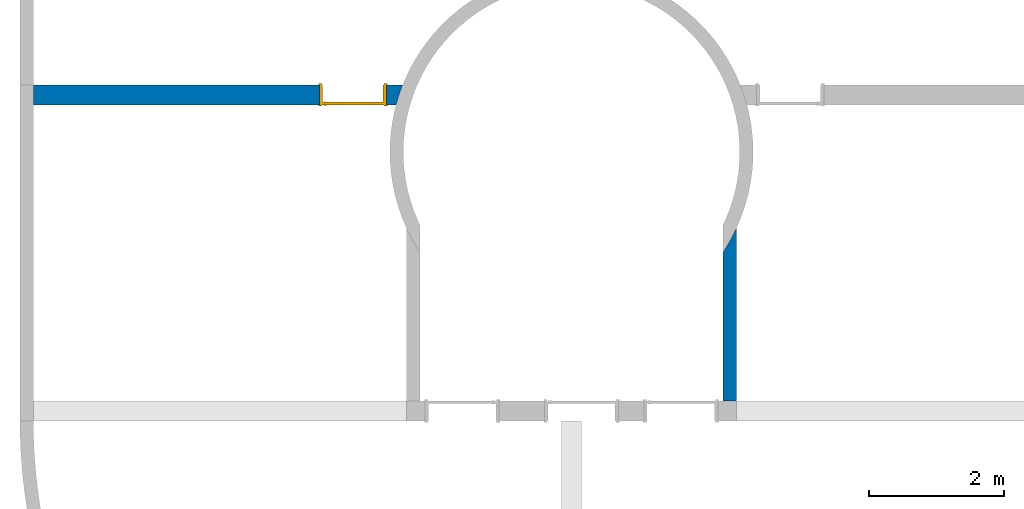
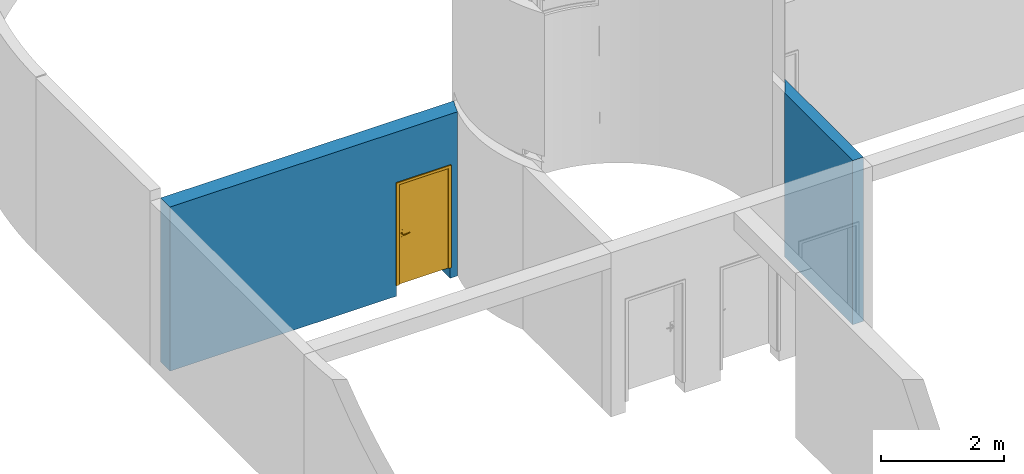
# One storey, part 5 of 8: 2 walls, 1 door, 1 opening.
"""IFC4 building model written with IfcOpenShell, lengths in millimetres."""

import ifcopenshell
import ifcopenshell.guid

model = None  # the IFC model being written
_history = None  # IfcOwnerHistory: only IFC2X3 demands one
_inside = {}  # id of a spatial element -> (the spatial element, [elements in it])
_under = {}  # id of a project, library or spatial element -> (it, [spatial elements below it])
_declared = {}  # id of a project -> (the project, [libraries it declares])
_typed = {}  # id of a type object -> (the type object, [elements of that type])
_made_of = {}  # id of a material, layer set ... -> (it, [elements and type objects made of it])


def new_model(schema):
    """Start an empty IFC model of exactly this schema.

    Asked for "IFC4X3", IfcOpenShell would pick the latest addendum, in which some entities
    have other attributes; the version numbers below select the first issue.
    IFC2X3 requires an IfcOwnerHistory on every rooted entity: one is made here for all.
    """
    global model, _history
    if schema == "IFC4X3":
        model = ifcopenshell.file(schema_version=(4, 3, 0, 0))
    else:
        model = ifcopenshell.file(schema=schema)
    _inside.clear()
    _under.clear()
    _declared.clear()
    _typed.clear()
    _made_of.clear()
    _history = None
    if model.schema == "IFC2X3":
        org = make("IfcOrganization", Name="unknown")
        user = make(
            "IfcPersonAndOrganization",
            ThePerson=make("IfcPerson", FamilyName="unknown"),
            TheOrganization=org,
        )
        app = make(
            "IfcApplication",
            ApplicationDeveloper=org,
            Version="unknown",
            ApplicationFullName="unknown",
            ApplicationIdentifier="unknown",
        )
        _history = make(
            "IfcOwnerHistory",
            OwningUser=user,
            OwningApplication=app,
            ChangeAction="ADDED",
            CreationDate=0,
        )
    return model


def make(cls, **values):
    """One entity of the class cls with the attributes given. An attribute that is None is left unset."""
    return model.create_entity(
        cls, **{name: value for name, value in values.items() if value is not None}
    )


def entity(cls, *values):
    """Any entity or typed value of the class cls, its attributes in the order of the schema. None: left unset."""
    e = model.create_entity(cls)
    for i, value in enumerate(values):
        if value is not None:
            e[i] = value
    return e


def rooted(cls, **values):
    """An entity with a GlobalId (a new one), such as an element, a storey or a relation."""
    return make(cls, GlobalId=ifcopenshell.guid.new(), OwnerHistory=_history, **values)


def si_unit(unit_type, name, prefix=None):
    """IfcSIUnit, for example si_unit("LENGTHUNIT", "METRE", prefix="MILLI")."""
    return make("IfcSIUnit", UnitType=unit_type, Prefix=prefix, Name=name)


def converted_unit(unit_type, name, factor, base, dimensions=None, offset=None):
    """IfcConversionBasedUnit, such as the inch: factor (a typed value) times the base unit."""
    return make(
        "IfcConversionBasedUnit"
        if offset is None
        else "IfcConversionBasedUnitWithOffset",
        ConversionOffset=offset,
        Dimensions=None
        if dimensions is None
        else entity("IfcDimensionalExponents", *dimensions),
        UnitType=unit_type,
        Name=name,
        ConversionFactor=make(
            "IfcMeasureWithUnit", ValueComponent=factor, UnitComponent=base
        ),
    )


def derived_unit(unit_type, elements):
    """IfcDerivedUnit: a product of units, each with its exponent."""
    return make(
        "IfcDerivedUnit",
        Elements=[
            make("IfcDerivedUnitElement", Unit=unit, Exponent=power)
            for unit, power in elements
        ],
        UnitType=unit_type,
    )


def assignment(units):
    """IfcUnitAssignment: the units of a project."""
    return None if units is None else make("IfcUnitAssignment", Units=units)


def point(xyz):
    """IfcCartesianPoint."""
    return None if xyz is None else make("IfcCartesianPoint", Coordinates=xyz)


def direction(xyz):
    """IfcDirection."""
    return None if xyz is None else make("IfcDirection", DirectionRatios=xyz)


def frame(location, z_axis=None, x_axis=None):
    """IfcAxis2Placement3D, a coordinate frame: its origin and axes. An axis left out is left unset."""
    return make(
        "IfcAxis2Placement3D",
        Location=point(location),
        Axis=direction(z_axis),
        RefDirection=direction(x_axis),
    )


def origin_with_axes():
    """The frame at (0, 0, 0) with the z axis (0, 0, 1) and the x axis (1, 0, 0) written out."""
    return frame((0.0, 0.0, 0.0), z_axis=(0.0, 0.0, 1.0), x_axis=(1.0, 0.0, 0.0))


def place(relative_to, where):
    """IfcLocalPlacement: puts the frame where relative to a parent placement (None: the world)."""
    return make(
        "IfcLocalPlacement", PlacementRelTo=relative_to, RelativePlacement=where
    )


def context(
    kind, dimensions, precision=None, world=None, true_north=None, identifier=None
):
    """IfcGeometricRepresentationContext, for example the 3D "Model" context."""
    return make(
        "IfcGeometricRepresentationContext",
        ContextIdentifier=identifier,
        ContextType=kind,
        CoordinateSpaceDimension=dimensions,
        Precision=precision,
        WorldCoordinateSystem=world,
        TrueNorth=true_north,
    )


def subcontext(parent, identifier, kind, view, scale=None):
    """IfcGeometricRepresentationSubContext, for example "Body" below "Model"."""
    return make(
        "IfcGeometricRepresentationSubContext",
        ContextIdentifier=identifier,
        ContextType=kind,
        ParentContext=parent,
        TargetScale=scale,
        TargetView=view,
    )


def project(units=None, contexts=None):
    """IfcProject with its units and contexts."""
    return rooted(
        "IfcProject",
        Name="project",
        RepresentationContexts=contexts,
        UnitsInContext=assignment(units),
    )


def spatial(cls, under=None, at=None, **own):
    """A site, building, storey or space (cls), placed at a placement, below another one or the project."""
    s = rooted(cls, ObjectPlacement=at, **own)
    if under is not None:
        _under.setdefault(under.id(), (under, []))[1].append(s)
    return s


def point_list(points):
    """IfcCartesianPointList2D or 3D."""
    cls = (
        "IfcCartesianPointList2D" if len(points[0]) == 2 else "IfcCartesianPointList3D"
    )
    return make(cls, CoordList=points)


def polygons(points, faces, closed=None, point_numbers=None):
    """IfcPolygonalFaceSet: a face is its outer loop, then its inner loops; points numbered from 1."""
    made = []
    for loops in faces:
        if len(loops) == 1:
            made.append(make("IfcIndexedPolygonalFace", CoordIndex=loops[0]))
        else:
            made.append(
                make(
                    "IfcIndexedPolygonalFaceWithVoids",
                    CoordIndex=loops[0],
                    InnerCoordIndices=loops[1:],
                )
            )
    return make(
        "IfcPolygonalFaceSet",
        Coordinates=point_list(points),
        Closed=closed,
        Faces=made,
        PnIndex=point_numbers,
    )


def shape(context_of_items, identifier, shape_type, items):
    """IfcShapeRepresentation: the items that make up one representation, for example the "Body"."""
    return make(
        "IfcShapeRepresentation",
        ContextOfItems=context_of_items,
        RepresentationIdentifier=identifier,
        RepresentationType=shape_type,
        Items=items,
    )


def material(Name=None, Category=None):
    """IfcMaterial."""
    return make("IfcMaterial", Name=Name, Category=Category)


def constituent(of_material, Name=None, Category=None, fraction=None):
    """IfcMaterialConstituent: one of the materials an element consists of."""
    return make(
        "IfcMaterialConstituent",
        Name=Name,
        Material=of_material,
        Fraction=fraction,
        Category=Category,
    )


def constituent_set(constituents=None, Name=None):
    """IfcMaterialConstituentSet."""
    return make(
        "IfcMaterialConstituentSet", Name=Name, MaterialConstituents=constituents
    )


def made_of(thing, what):
    """Note that an element or type object is made of a material, layer set ...; save() writes the relation."""
    if what is not None:
        _made_of.setdefault(what.id(), (what, []))[1].append(thing)
    return thing


def type_object(cls, material=None, **own):
    """A type object (cls), such as IfcWallType, which elements share."""
    return made_of(rooted(cls, **own), material)


def element(
    cls,
    number,
    at=None,
    inside=None,
    cuts=None,
    type_object=None,
    material=None,
    context=None,
    identifier="Body",
    shape_type=None,
    held_by="IfcProductDefinitionShape",
    body=None,
    shapes=None,
    **own,
):
    """One element of the class cls, such as IfcWall. Its Tag is "e" and its number.

    at: its placement. inside: the storey or other place that contains it. cuts: it is an
    opening in that element (IfcRelVoidsElement). A single representation is given by context,
    identifier, shape_type and body (its items); several are given by shapes. held_by: the class
    of the entity that holds the representations. save() writes the other relations.
    """
    e = rooted(cls, Tag="e%d" % number, ObjectPlacement=at, **own)
    if body is not None:
        shapes = [shape(context, identifier, shape_type, body)]
    if shapes is not None:
        e.Representation = make(held_by, Representations=shapes)
    if inside is not None:
        _inside.setdefault(inside.id(), (inside, []))[1].append(e)
    if cuts is not None:
        rooted(
            "IfcRelVoidsElement", RelatingBuildingElement=cuts, RelatedOpeningElement=e
        )
    if type_object is not None:
        _typed.setdefault(type_object.id(), (type_object, []))[1].append(e)
    return made_of(e, material)


def fill(opening, filler):
    """IfcRelFillsElement: the door or window that sits in an opening."""
    return rooted(
        "IfcRelFillsElement",
        RelatingOpeningElement=opening,
        RelatedBuildingElement=filler,
    )


def aggregate(whole, parts):
    """IfcRelAggregates: a whole, such as a stair, and the parts it consists of."""
    return rooted("IfcRelAggregates", RelatingObject=whole, RelatedObjects=parts)


def save(model, path):
    """Write the relations noted so far, then the file.

    IfcRelAggregates (storeys below a building ...), IfcRelContainedInSpatialStructure (elements
    in a storey), IfcRelDefinesByType, IfcRelAssociatesMaterial and IfcRelDeclares: one each for
    every whole, place, type object, material and project.
    """
    for whole, parts in _under.values():
        aggregate(whole, parts)
    for where, things in _inside.values():
        rooted(
            "IfcRelContainedInSpatialStructure",
            RelatedElements=things,
            RelatingStructure=where,
        )
    for kind, things in _typed.values():
        rooted("IfcRelDefinesByType", RelatedObjects=things, RelatingType=kind)
    for what, things in _made_of.values():
        rooted("IfcRelAssociatesMaterial", RelatedObjects=things, RelatingMaterial=what)
    for by, libraries in _declared.values():
        rooted("IfcRelDeclares", RelatingContext=by, RelatedDefinitions=libraries)
    model.write(path)


model = new_model("IFC4")

# Units and contexts
model_context = context("Model", 3, precision=0.01, world=origin_with_axes(), true_north=direction((0.0, 1.0)))
body_context = subcontext(model_context, "Body", "Model", "MODEL_VIEW")
ifc_project = project(units=[si_unit("LENGTHUNIT", "METRE", prefix="MILLI"), si_unit("AREAUNIT", "SQUARE_METRE"), si_unit("VOLUMEUNIT", "CUBIC_METRE"), converted_unit("PLANEANGLEUNIT", "DEGREE", entity("IfcPlaneAngleMeasure", 0.0174532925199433), si_unit("PLANEANGLEUNIT", "RADIAN"), dimensions=[0, 0, 0, 0, 0, 0, 0]), converted_unit("TIMEUNIT", "Year", entity("IfcTimeMeasure", 31557600.0), si_unit("TIMEUNIT", "SECOND"), dimensions=[0, 0, 1, 0, 0, 0, 0]), si_unit("MASSUNIT", "GRAM", prefix="KILO"), si_unit("THERMODYNAMICTEMPERATUREUNIT", "DEGREE_CELSIUS"), si_unit("LUMINOUSINTENSITYUNIT", "LUMEN"), si_unit("ENERGYUNIT", "JOULE", prefix="MEGA"), derived_unit("THERMALCONDUCTANCEUNIT", [(si_unit("POWERUNIT", "WATT"), 1), (si_unit("LENGTHUNIT", "METRE"), -1), (si_unit("THERMODYNAMICTEMPERATUREUNIT", "KELVIN"), -1)]), derived_unit("SPECIFICHEATCAPACITYUNIT", [(si_unit("ENERGYUNIT", "JOULE"), 1), (si_unit("MASSUNIT", "GRAM", prefix="KILO"), -1), (si_unit("THERMODYNAMICTEMPERATUREUNIT", "KELVIN"), -1)]), derived_unit("MASSDENSITYUNIT", [(si_unit("MASSUNIT", "GRAM", prefix="KILO"), 1), (si_unit("VOLUMEUNIT", "CUBIC_METRE"), -1)])], contexts=[model_context])

# Site, building, storey
site_placement = place(None, origin_with_axes())
site = spatial("IfcSite", under=ifc_project, at=site_placement, Name="Exteriér", CompositionType="ELEMENT")
building_placement = place(site_placement, origin_with_axes())
building = spatial("IfcBuilding", under=site, at=building_placement, Name="Univerzitní lezecké centrum", CompositionType="ELEMENT")
storey_placement = place(building_placement, frame((0.0, 0.0, -3350.0), z_axis=(0.0, 0.0, 1.0), x_axis=(1.0, 0.0, 0.0)))
storey = spatial("IfcBuildingStorey", under=building, at=storey_placement, Name="1.PP", CompositionType="ELEMENT", Elevation=-3350.0)

# Wall, opening, door
ifc_material = material(Name="Beton vyztužený - vnitřní svislé kce")
ifc_constituent_1 = constituent(ifc_material, Name="Beton vyztužený - vnitřní svislé kce")
ifc_constituent_set_1 = constituent_set(constituents=[ifc_constituent_1], Name="!Vnitřní betonová stěna 300 mm")
wall_type_1 = type_object("IfcWallType", Name="!Vnitřní betonová stěna 300 mm 300", PredefinedType="NOTDEFINED")
wall_1_placement = place(storey_placement, frame((-5550.14835114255, 4700.000000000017, -220.0000000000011), z_axis=(0.0, 0.0, 1.0), x_axis=(1.0, 0.0, 0.0)))
wall_1 = element("IfcWall", 1, at=wall_1_placement, inside=storey, type_object=wall_type_1, material=ifc_constituent_set_1, Name="St04", PredefinedType="NOTDEFINED", context=body_context, shape_type="Tessellation", body=[
    polygons([(4249.739482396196, -299.9999999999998, 0.500000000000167), (4249.739482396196, 0.0, 0.500000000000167), (4249.739482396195, 0.0, 220.0000000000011), (4249.739482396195, -299.9999999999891, 220.0000000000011), (4249.739482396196, 0.0, 0.0), (4249.739482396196, -299.9999999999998, 0.0), (5249.739482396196, 0.0, 0.0), (5249.739482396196, 0.0, 0.500000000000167), (5249.739482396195, 0.0, 220.0000000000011), (5249.739482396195, 0.0, 2240.000000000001), (4249.739482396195, 0.0, 2240.000000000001), (0.0, 0.0, 0.0), (0.0, 0.0, 3250.0), (5491.70995505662, 0.0, 3250.000000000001), (5491.709955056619, 0.0, 0.0), (4249.739482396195, -299.9999999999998, 2240.000000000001), (5249.739482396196, -299.9999999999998, 0.500000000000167), (5249.739482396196, -299.9999999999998, 0.0), (5391.501781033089, -299.9999999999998, 0.0), (5391.501781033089, -299.9999999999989, 3250.000000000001), (0.0, -299.9999999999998, 3250.0), (0.0, -299.9999999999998, 0.0), (5249.739482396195, -299.9999999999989, 2240.000000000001), (5249.739482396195, -299.9999999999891, 220.0000000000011), (5396.315327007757, -280.1582932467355, 3250.000000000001), (5447.212569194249, -116.4716799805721, 3250.000000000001), (5447.212569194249, -116.4716799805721, 0.0), (5396.315327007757, -280.1582932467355, 0.0)], [[[1, 2, 3, 4]], [[5, 2, 1, 6]], [[7, 8, 9, 10, 11, 3, 2, 5, 12, 13, 14, 15]], [[16, 4, 3, 11]], [[17, 18, 19, 20, 21, 22, 6, 1, 4, 16, 23, 24]], [[5, 6, 22, 12]], [[17, 8, 7, 18]], [[8, 17, 24, 9]], [[24, 23, 10, 9]], [[23, 16, 11, 10]], [[12, 22, 21, 13]], [[25, 26, 14, 13, 21, 20]], [[26, 27, 15, 14]], [[18, 7, 15, 27, 28, 19]], [[19, 28, 25, 20]], [[28, 27, 26, 25]]], closed=True),
])
opening_placement = place(wall_1_placement, frame((4749.739482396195, 0.0, 220.0000000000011), z_axis=(0.0, 0.0, 1.0), x_axis=(1.0, 0.0, 0.0)))
opening = element("IfcOpeningElement", 2, at=opening_placement, cuts=wall_1, Name="D03", context=body_context, identifier="Reference", shape_type="Tessellation", body=[
    polygons([(-500.0, -299.9999999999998, 2020.0), (500.0, -299.9999999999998, 2020.0), (500.0, 0.0, 2020.0), (-500.0, 0.0, 2020.0), (500.0, -299.9999999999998, 0.0), (-500.0, -299.9999999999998, 0.0), (-512.0, -299.9999999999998, 0.0), (-512.0, -299.9999999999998, 2032.0), (512.0, -299.9999999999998, 2032.0), (512.0, -299.9999999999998, 0.0), (500.0, 0.0, 0.0), (512.0, 0.0, 0.0), (512.0, 0.0, 2032.0), (-512.0, 0.0, 2032.0), (-512.0, 0.0, 0.0), (-500.0, 0.0, 0.0), (-500.0, -301.0000000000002, 0.0), (-512.0, -301.0000000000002, 0.0), (-512.0, -301.0000000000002, 2032.0), (512.0, -301.0000000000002, 2032.0), (512.0, -301.0000000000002, 0.0), (500.0, -301.0000000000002, 0.0), (-500.0000000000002, 1.000000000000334, 0.0), (500.0, 1.000000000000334, 0.0), (512.0, 1.000000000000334, 0.0), (512.0, 1.000000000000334, 2032.0), (-512.0, 1.000000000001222, 2032.0), (-512.0, 1.000000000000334, 0.0), (-500.0, -301.0000000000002, 2020.0), (500.0, -301.0000000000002, 2020.0)], [[[1, 2, 3, 4]], [[5, 2, 1, 6, 7, 8, 9, 10]], [[2, 5, 11, 3]], [[4, 3, 11, 12, 13, 14, 15, 16]], [[6, 1, 4, 16]], [[6, 17, 18, 7]], [[8, 7, 18, 19]], [[9, 8, 19, 20]], [[10, 9, 20, 21]], [[22, 5, 10, 21]], [[17, 6, 16, 23, 24, 11, 5, 22]], [[11, 24, 25, 12]], [[13, 12, 25, 26]], [[14, 13, 26, 27]], [[15, 14, 27, 28]], [[23, 16, 15, 28]], [[29, 30, 22, 21, 20, 19, 18, 17]], [[24, 23, 28, 27, 26, 25]], [[29, 17, 22, 30]]], closed=True),
])
door_type = type_object("IfcDoorType", Name="Dveře 24", OperationType="SINGLE_SWING_LEFT", PredefinedType="NOTDEFINED")
door_placement = place(opening_placement, frame((449.9999999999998, 0.0, 0.0), z_axis=(0.0, 0.0, 1.0), x_axis=(-1.0, 0.0, 0.0)))
door = element("IfcDoor", 3, at=door_placement, inside=storey, type_object=door_type, Name="D03", OverallHeight=2020.0, OverallWidth=1000.0, PredefinedType="NOTDEFINED", context=body_context, shape_type="Tessellation", body=[
    polygons([(911.9999999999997, 299.9999999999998, 0.0), (911.9999999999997, 318.9999999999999, 0.0), (962.0, 318.9999999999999, 0.0), (962.0, 299.9999999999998, 0.0), (911.9999999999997, 299.9999999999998, 1982.0), (911.9999999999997, 318.9999999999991, 1982.0), (962.0, 318.9999999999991, 2032.0), (962.0, 299.9999999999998, 2032.0)], [[[1, 2, 3, 4]], [[5, 6, 2, 1]], [[6, 7, 3, 2]], [[4, 3, 7, 8]], [[5, 1, 4, 8]], [[8, 7, 6, 5]]], closed=True),
    polygons([(-12.00000000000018, 299.9999999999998, 1982.0), (-12.00000000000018, 318.9999999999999, 1982.0), (-62.0, 318.9999999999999, 2032.0), (-62.0, 299.9999999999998, 2032.0), (-12.00000000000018, 299.9999999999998, 0.0), (-12.00000000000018, 318.9999999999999, 0.0), (-62.0, 318.9999999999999, 0.0), (-62.0, 299.9999999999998, 0.0)], [[[1, 2, 3, 4]], [[5, 6, 2, 1]], [[6, 7, 3, 2]], [[4, 3, 7, 8]], [[5, 1, 4, 8]], [[8, 7, 6, 5]]], closed=True),
    polygons([(900.0000000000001, 0.0, 1970.0), (900.0000000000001, 259.9999999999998, 1970.0), (900.0000000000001, 259.9999999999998, 0.0), (900.0000000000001, 0.0, 0.0), (950.0, 299.9999999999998, 1970.0), (911.9999999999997, 299.9999999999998, 1970.0), (911.9999999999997, 259.9999999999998, 1970.0), (950.0, 0.0, 1970.0), (911.9999999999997, 259.9999999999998, 0.0), (911.9999999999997, 299.9999999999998, 0.0), (950.0, 299.9999999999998, 0.0), (950.0, 0.0, 0.0)], [[[1, 2, 3, 4]], [[5, 6, 7, 2, 1, 8]], [[3, 2, 7, 9]], [[4, 3, 9, 10, 11, 12]], [[8, 1, 4, 12]], [[11, 10, 6, 5]], [[9, 7, 6, 10]], [[8, 12, 11, 5]]], closed=True),
    polygons([(0.0, 0.0, 1970.0), (0.0, 259.9999999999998, 1970.0), (-12.00000000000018, 259.9999999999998, 1970.0), (-12.00000000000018, 299.9999999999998, 1970.0), (-49.99999999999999, 299.9999999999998, 1970.0), (-49.99999999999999, 0.0, 1970.0), (0.0, 0.0, 0.0), (0.0, 259.9999999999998, 0.0), (-12.00000000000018, 259.9999999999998, 0.0), (-12.00000000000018, 299.9999999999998, 0.0), (-49.99999999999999, 299.9999999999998, 0.0), (-49.99999999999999, 0.0, 0.0)], [[[1, 2, 3, 4, 5, 6]], [[7, 8, 2, 1]], [[9, 3, 2, 8]], [[10, 4, 3, 9]], [[5, 4, 10, 11]], [[12, 6, 5, 11]], [[7, 1, 6, 12]], [[11, 10, 9, 8, 7, 12]]], closed=True),
    polygons([(911.9999999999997, 259.9999999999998, 0.0), (-11.99999999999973, 259.9999999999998, 0.0), (-11.99999999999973, 299.9999999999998, 0.0), (911.9999999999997, 299.9999999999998, 0.0), (911.9999999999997, 259.9999999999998, 1982.0), (-11.99999999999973, 259.9999999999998, 1982.0), (-11.99999999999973, 299.9999999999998, 1982.0), (911.9999999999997, 299.9999999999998, 1982.0)], [[[1, 2, 3, 4]], [[5, 6, 2, 1]], [[2, 6, 7, 3]], [[8, 4, 3, 7]], [[5, 1, 4, 8]], [[6, 5, 8, 7]]], closed=True),
    polygons([(962.0, 0.0, 0.0), (962.0, -19.00000000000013, 0.0), (911.9999999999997, -19.00000000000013, 0.0), (911.9999999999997, 0.0, 0.0), (962.0, 0.0, 2032.0), (962.0, -19.00000000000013, 2032.0), (911.9999999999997, -19.00000000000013, 1982.0), (911.9999999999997, 0.0, 1982.0)], [[[1, 2, 3, 4]], [[5, 6, 2, 1]], [[3, 2, 6, 7]], [[4, 3, 7, 8]], [[5, 1, 4, 8]], [[8, 7, 6, 5]]], closed=True),
    polygons([(-62.0, 0.0, 2032.0), (-62.0, -19.00000000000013, 2032.0), (-12.00000000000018, -19.00000000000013, 1982.0), (-12.00000000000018, 0.0, 1982.0), (-62.0, 0.0, 0.0), (-62.0, -19.00000000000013, 0.0), (-12.00000000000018, -19.00000000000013, 0.0), (-12.00000000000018, 0.0, 0.0)], [[[1, 2, 3, 4]], [[5, 6, 2, 1]], [[3, 2, 6, 7]], [[4, 3, 7, 8]], [[5, 1, 4, 8]], [[8, 7, 6, 5]]], closed=True),
    polygons([(962.0, -19.00000000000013, 2032.0), (911.9999999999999, -19.00000000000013, 1982.0), (911.9999999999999, 0.0, 1982.0), (962.0, 0.0, 2032.0), (-62.0, -19.00000000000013, 2032.0), (-12.00000000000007, -19.00000000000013, 1982.0), (-12.00000000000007, 0.0, 1982.0), (-62.0, 0.0, 2032.0)], [[[1, 2, 3, 4]], [[1, 5, 6, 2]], [[2, 6, 7, 3]], [[4, 3, 7, 8]], [[5, 1, 4, 8]], [[6, 5, 8, 7]]], closed=True),
    polygons([(962.0, 318.9999999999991, 2032.0), (962.0, 299.9999999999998, 2032.0), (911.9999999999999, 299.9999999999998, 1982.0), (911.9999999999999, 318.9999999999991, 1982.0), (-62.0, 318.9999999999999, 2032.0), (-62.0, 299.9999999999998, 2032.0), (-11.99999999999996, 299.9999999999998, 1982.0), (-11.99999999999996, 318.9999999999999, 1982.0)], [[[1, 2, 3, 4]], [[5, 6, 2, 1]], [[2, 6, 7, 3]], [[4, 3, 7, 8]], [[1, 4, 8, 5]], [[8, 7, 6, 5]]], closed=True),
    polygons([(911.9999999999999, 299.9999999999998, 1982.0), (-12.00000000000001, 299.9999999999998, 1982.0), (-12.00000000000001, 299.9999999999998, 1970.0), (-49.99999999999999, 299.9999999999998, 1970.0), (-49.99999999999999, 299.9999999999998, 2020.0), (950.0, 299.9999999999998, 2020.0), (950.0, 299.9999999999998, 1970.0), (911.9999999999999, 299.9999999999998, 1970.0), (911.9999999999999, 259.9999999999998, 1982.0), (-12.00000000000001, 259.9999999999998, 1982.0), (-12.00000000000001, 259.9999999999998, 1970.0), (0.0, 259.9999999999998, 1970.0), (0.0, 0.0, 1970.0), (-49.99999999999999, 0.0, 1970.0), (-49.99999999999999, 0.0, 2020.0), (950.0, 0.0, 2020.0), (950.0, 0.0, 1970.0), (911.9999999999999, 259.9999999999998, 1970.0), (899.9999999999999, 0.0, 1970.0), (899.9999999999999, 259.9999999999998, 1970.0)], [[[1, 2, 3, 4, 5, 6, 7, 8]], [[1, 9, 10, 2]], [[2, 10, 11, 3]], [[11, 12, 13, 14, 4, 3]], [[5, 4, 14, 15]], [[6, 5, 15, 16]], [[7, 6, 16, 17]], [[18, 8, 7, 17, 19, 20]], [[8, 18, 9, 1]], [[11, 10, 9, 18, 20, 12]], [[20, 19, 13, 12]], [[13, 19, 17, 16, 15, 14]]], closed=True),
    polygons([(890.5000000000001, 259.9999999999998, 1060.0), (833.4999999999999, 259.9999999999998, 1060.0), (833.4999999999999, 256.9999999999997, 1060.0), (890.5000000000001, 256.9999999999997, 1060.0), (890.5000000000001, 259.9999999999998, 870.0000000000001), (833.4999999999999, 259.9999999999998, 870.0000000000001), (833.4999999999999, 256.9999999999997, 870.0000000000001), (890.5000000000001, 256.9999999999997, 870.0000000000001)], [[[1, 2, 3, 4]], [[1, 5, 6, 2]], [[2, 6, 7, 3]], [[4, 3, 7, 8]], [[5, 1, 4, 8]], [[6, 5, 8, 7]]], closed=True),
    polygons([(861.9999999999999, 195.9999999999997, 989.9999999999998), (867.0, 195.9999999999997, 991.3397459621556), (867.0, 189.0000000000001, 991.3397459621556), (861.9999999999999, 189.0000000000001, 989.9999999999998), (837.0, 195.9999999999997, 989.9999999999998), (837.0, 195.9999999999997, 1010.0), (861.9999999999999, 195.9999999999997, 1010.0), (867.0, 195.9999999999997, 1008.660254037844), (870.6602540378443, 195.9999999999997, 1005.0), (871.9999999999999, 195.9999999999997, 1000.0), (870.6602540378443, 195.9999999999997, 995.0000000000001), (870.6602540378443, 189.0000000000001, 995.0000000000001), (871.9999999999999, 189.0000000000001, 1000.0), (870.6602540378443, 189.0000000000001, 1005.0), (867.0, 189.0000000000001, 1008.660254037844), (861.9999999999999, 189.0000000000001, 1010.0), (837.0, 189.0000000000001, 1010.0), (837.0, 189.0000000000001, 989.9999999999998)], [[[1, 2, 3, 4]], [[1, 5, 6, 7, 8, 9, 10, 11, 2]], [[2, 11, 12, 3]], [[4, 3, 12, 13, 14, 15, 16, 17, 18]], [[5, 1, 4, 18]], [[6, 5, 18, 17]], [[7, 6, 17, 16]], [[8, 7, 16, 15]], [[9, 8, 15, 14]], [[10, 9, 14, 13]], [[11, 10, 13, 12]]], closed=True),
    polygons([(837.0, 195.9999999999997, 1010.0), (823.9017171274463, 195.9999999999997, 1009.607300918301), (823.5960905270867, 189.0000000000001, 1009.607300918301), (837.0, 195.9999999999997, 989.9999999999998), (823.9017171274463, 195.9999999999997, 990.3926990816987), (796.8902834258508, 191.3364553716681, 1008.821902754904), (837.0, 189.0000000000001, 1010.0), (837.0, 189.0000000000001, 989.9999999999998), (797.8048372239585, 198.2831811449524, 991.1780972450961), (797.8048372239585, 198.2831811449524, 1008.821902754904), (796.8902834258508, 191.3364553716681, 991.1780972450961), (823.5960905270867, 189.0000000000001, 990.3926990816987), (772.0062561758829, 202.8321670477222, 991.9634954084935), (772.0062561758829, 202.8321670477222, 1008.036504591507), (770.4897354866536, 195.9915842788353, 1008.036504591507), (770.4897354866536, 195.9915842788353, 991.9634954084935), (746.7023167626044, 209.6123371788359, 992.7488935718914), (746.7023167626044, 209.6123371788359, 1007.251106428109), (744.5953708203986, 202.9299583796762, 1007.251106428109), (744.5953708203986, 202.9299583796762, 992.7488935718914), (738.8294420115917, 212.4778292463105, 992.9999999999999), (738.8294420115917, 212.4778292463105, 1007.0), (736.5387956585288, 205.8623119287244, 1007.0), (736.5387956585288, 205.8623119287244, 992.9999999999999)], [[[1, 2, 3]], [[1, 4, 5, 2]], [[2, 6, 3]], [[1, 3, 7]], [[5, 4, 8]], [[2, 5, 9, 10]], [[2, 10, 6]], [[3, 6, 11, 12]], [[7, 3, 12, 8]], [[5, 8, 12]], [[9, 5, 12]], [[10, 9, 13, 14]], [[10, 15, 6]], [[6, 15, 16, 11]], [[9, 12, 11]], [[13, 9, 11]], [[14, 13, 17, 18]], [[10, 14, 15]], [[15, 19, 20, 16]], [[13, 11, 16]], [[17, 13, 16]], [[18, 17, 21, 22]], [[14, 18, 19]], [[14, 19, 15]], [[19, 23, 24, 20]], [[17, 16, 20]], [[21, 17, 20]], [[22, 21, 24, 23]], [[18, 22, 23]], [[18, 23, 19]], [[21, 20, 24]]], closed=False),
    polygons([(851.6076951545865, 246.9999999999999, 994.0000000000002), (849.9999999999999, 246.9999999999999, 1000.0), (849.0, 256.9999999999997, 1000.0), (850.7416697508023, 256.9999999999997, 993.5), (855.9999999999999, 246.9999999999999, 989.6076951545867), (861.9999999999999, 246.9999999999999, 988.0), (867.9999999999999, 246.9999999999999, 989.6076951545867), (872.3923048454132, 246.9999999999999, 994.0000000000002), (873.9999999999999, 246.9999999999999, 1000.0), (872.3923048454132, 246.9999999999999, 1006.0), (867.9999999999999, 246.9999999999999, 1010.392304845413), (861.9999999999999, 246.9999999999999, 1012.0), (855.9999999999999, 246.9999999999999, 1010.392304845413), (851.6076951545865, 246.9999999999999, 1006.0), (850.7416697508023, 256.9999999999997, 1006.5), (855.4999999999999, 256.9999999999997, 1011.258330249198), (861.9999999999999, 256.9999999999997, 1013.0), (868.4999999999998, 256.9999999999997, 1011.258330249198), (873.2583302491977, 256.9999999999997, 1006.5), (875.0, 256.9999999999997, 1000.0), (873.2583302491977, 256.9999999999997, 993.5), (868.4999999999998, 256.9999999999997, 988.741669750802), (861.9999999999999, 256.9999999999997, 987.0000000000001), (855.4999999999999, 256.9999999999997, 988.741669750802)], [[[1, 2, 3, 4]], [[2, 1, 5, 6, 7, 8, 9, 10, 11, 12, 13, 14]], [[2, 14, 15, 3]], [[3, 15, 16, 17, 18, 19, 20, 21, 22, 23, 24, 4]], [[5, 1, 4, 24]], [[6, 5, 24, 23]], [[7, 6, 23, 22]], [[8, 7, 22, 21]], [[9, 8, 21, 20]], [[10, 9, 20, 19]], [[11, 10, 19, 18]], [[12, 11, 18, 17]], [[13, 12, 17, 16]], [[14, 13, 16, 15]]], closed=True),
    polygons([(844.679491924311, 253.0000000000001, 895.0), (841.9999999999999, 253.0000000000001, 904.9999999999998), (839.9999999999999, 256.9999999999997, 904.9999999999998), (842.9474411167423, 256.9999999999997, 894.0000000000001), (851.9999999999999, 253.0000000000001, 887.6794919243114), (861.9999999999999, 253.0000000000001, 885.0000000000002), (871.9999999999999, 253.0000000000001, 887.6794919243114), (879.3205080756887, 253.0000000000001, 895.0), (881.9999999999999, 253.0000000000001, 904.9999999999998), (879.3205080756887, 253.0000000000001, 915.0), (871.9999999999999, 253.0000000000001, 922.3205080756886), (861.9999999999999, 253.0000000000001, 925.0000000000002), (851.9999999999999, 253.0000000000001, 922.3205080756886), (844.6794919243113, 253.0000000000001, 915.0), (842.9474411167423, 256.9999999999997, 915.9999999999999), (851.0, 256.9999999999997, 924.0525588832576), (861.9999999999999, 256.9999999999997, 927.0), (873.0, 256.9999999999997, 924.0525588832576), (881.0525588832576, 256.9999999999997, 915.9999999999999), (883.9999999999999, 256.9999999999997, 904.9999999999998), (881.0525588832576, 256.9999999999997, 894.0000000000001), (873.0, 256.9999999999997, 885.9474411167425), (861.9999999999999, 256.9999999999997, 883.0), (851.0, 256.9999999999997, 885.9474411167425)], [[[1, 2, 3, 4]], [[2, 1, 5, 6, 7, 8, 9, 10, 11, 12, 13, 14]], [[2, 14, 15, 3]], [[3, 15, 16, 17, 18, 19, 20, 21, 22, 23, 24, 4]], [[5, 1, 4, 24]], [[6, 5, 24, 23]], [[7, 6, 23, 22]], [[8, 7, 22, 21]], [[9, 8, 21, 20]], [[10, 9, 20, 19]], [[11, 10, 19, 18]], [[12, 11, 18, 17]], [[13, 12, 17, 16]], [[14, 13, 16, 15]]], closed=True),
    polygons([(857.0502525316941, 250.9999999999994, 909.0502525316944), (855.0, 250.9999999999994, 914.0000000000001), (853.9999999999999, 253.0000000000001, 914.0000000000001), (856.3431457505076, 253.0000000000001, 908.3431457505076), (861.9999999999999, 250.9999999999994, 907.0), (866.9497474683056, 250.9999999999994, 909.0502525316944), (869.0, 250.9999999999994, 914.0000000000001), (866.9497474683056, 250.9999999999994, 918.949747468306), (861.9999999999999, 250.9999999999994, 920.9999999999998), (857.0502525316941, 250.9999999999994, 918.949747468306), (856.3431457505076, 253.0000000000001, 919.6568542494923), (861.9999999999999, 253.0000000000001, 922.0000000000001), (867.6568542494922, 253.0000000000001, 919.6568542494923), (869.9999999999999, 253.0000000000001, 914.0000000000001), (867.6568542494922, 253.0000000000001, 908.3431457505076), (861.9999999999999, 253.0000000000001, 906.0000000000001)], [[[1, 2, 3, 4]], [[2, 1, 5, 6, 7, 8, 9, 10]], [[2, 10, 11, 3]], [[3, 11, 12, 13, 14, 15, 16, 4]], [[5, 1, 4, 16]], [[6, 5, 16, 15]], [[7, 6, 15, 14]], [[8, 7, 14, 13]], [[9, 8, 13, 12]], [[10, 9, 12, 11]]], closed=True),
    polygons([(861.9999999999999, 246.9999999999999, 1010.0), (857.0, 246.9999999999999, 1008.660254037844), (857.0, 195.9999999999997, 1008.660254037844), (861.9999999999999, 195.9999999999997, 1010.0), (867.0, 246.9999999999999, 1008.660254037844), (870.6602540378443, 246.9999999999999, 1005.0), (871.9999999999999, 246.9999999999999, 1000.0), (870.6602540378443, 246.9999999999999, 995.0000000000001), (867.0, 246.9999999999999, 991.3397459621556), (861.9999999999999, 246.9999999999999, 989.9999999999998), (857.0, 246.9999999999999, 991.3397459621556), (853.3397459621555, 246.9999999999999, 995.0000000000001), (851.9999999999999, 246.9999999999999, 1000.0), (853.3397459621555, 246.9999999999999, 1005.0), (853.3397459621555, 195.9999999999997, 1005.0), (851.9999999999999, 195.9999999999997, 1000.0), (853.3397459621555, 195.9999999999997, 995.0000000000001), (857.0, 195.9999999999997, 991.3397459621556), (861.9999999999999, 195.9999999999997, 989.9999999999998), (867.0, 195.9999999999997, 991.3397459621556), (870.6602540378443, 195.9999999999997, 995.0000000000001), (871.9999999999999, 195.9999999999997, 1000.0), (870.6602540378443, 195.9999999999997, 1005.0), (867.0, 195.9999999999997, 1008.660254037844)], [[[1, 2, 3, 4]], [[1, 5, 6, 7, 8, 9, 10, 11, 12, 13, 14, 2]], [[2, 14, 15, 3]], [[4, 3, 15, 16, 17, 18, 19, 20, 21, 22, 23, 24]], [[5, 1, 4, 24]], [[6, 5, 24, 23]], [[7, 6, 23, 22]], [[8, 7, 22, 21]], [[9, 8, 21, 20]], [[10, 9, 20, 19]], [[11, 10, 19, 18]], [[12, 11, 18, 17]], [[13, 12, 17, 16]], [[14, 13, 16, 15]]], closed=True),
    polygons([(890.5000000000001, 299.9999999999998, 1060.0), (890.5000000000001, 302.9999999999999, 1060.0), (833.4999999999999, 302.9999999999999, 1060.0), (833.4999999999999, 299.9999999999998, 1060.0), (890.5000000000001, 299.9999999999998, 870.0000000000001), (890.5000000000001, 302.9999999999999, 870.0000000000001), (833.4999999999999, 302.9999999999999, 870.0000000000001), (833.4999999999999, 299.9999999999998, 870.0000000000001)], [[[1, 2, 3, 4]], [[5, 6, 2, 1]], [[2, 6, 7, 3]], [[4, 3, 7, 8]], [[1, 4, 8, 5]], [[8, 7, 6, 5]]], closed=True),
    polygons([(861.9999999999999, 363.9999999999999, 989.9999999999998), (861.9999999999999, 370.9999999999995, 989.9999999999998), (867.0, 370.9999999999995, 991.3397459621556), (867.0, 363.9999999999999, 991.3397459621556), (837.0, 363.9999999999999, 989.9999999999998), (837.0, 370.9999999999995, 989.9999999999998), (837.0, 370.9999999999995, 1010.0), (861.9999999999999, 370.9999999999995, 1010.0), (867.0, 370.9999999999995, 1008.660254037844), (870.6602540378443, 370.9999999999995, 1005.0), (871.9999999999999, 370.9999999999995, 1000.0), (870.6602540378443, 370.9999999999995, 995.0000000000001), (870.6602540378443, 363.9999999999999, 995.0000000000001), (871.9999999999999, 363.9999999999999, 1000.0), (870.6602540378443, 363.9999999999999, 1005.0), (867.0, 363.9999999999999, 1008.660254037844), (861.9999999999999, 363.9999999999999, 1010.0), (837.0, 363.9999999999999, 1010.0)], [[[1, 2, 3, 4]], [[5, 6, 2, 1]], [[2, 6, 7, 8, 9, 10, 11, 12, 3]], [[4, 3, 12, 13]], [[1, 4, 13, 14, 15, 16, 17, 18, 5]], [[18, 7, 6, 5]], [[17, 8, 7, 18]], [[16, 9, 8, 17]], [[15, 10, 9, 16]], [[14, 11, 10, 15]], [[13, 12, 11, 14]]], closed=True),
    polygons([(837.0, 363.9999999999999, 1010.0), (823.5960905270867, 370.9999999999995, 1009.607300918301), (823.9017171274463, 363.9999999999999, 1009.607300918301), (837.0, 370.9999999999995, 1010.0), (796.8902834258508, 368.6635446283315, 1008.821902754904), (823.9017171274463, 363.9999999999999, 990.3926990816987), (837.0, 363.9999999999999, 989.9999999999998), (837.0, 370.9999999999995, 989.9999999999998), (823.5960905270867, 370.9999999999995, 990.3926990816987), (796.8902834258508, 368.6635446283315, 991.1780972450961), (797.8048372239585, 361.7168188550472, 1008.821902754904), (797.8048372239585, 361.7168188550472, 991.1780972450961), (770.4897354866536, 364.0084157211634, 991.9634954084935), (770.4897354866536, 364.0084157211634, 1008.036504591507), (772.0062561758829, 357.1678329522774, 1008.036504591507), (772.0062561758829, 357.1678329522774, 991.9634954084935), (744.5953708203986, 357.0700416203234, 992.7488935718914), (744.5953708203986, 357.0700416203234, 1007.251106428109), (746.7023167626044, 350.3876628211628, 1007.251106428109), (746.7023167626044, 350.3876628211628, 992.7488935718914), (736.5387956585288, 354.1376880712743, 992.9999999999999), (736.5387956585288, 354.1376880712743, 1007.0), (738.8294420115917, 347.5221707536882, 1007.0), (738.8294420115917, 347.5221707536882, 992.9999999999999)], [[[1, 2, 3]], [[1, 4, 2]], [[3, 2, 5]], [[1, 3, 6, 7]], [[4, 8, 9, 2]], [[2, 9, 10, 5]], [[3, 5, 11]], [[3, 11, 12, 6]], [[6, 8, 7]], [[6, 9, 8]], [[12, 10, 9]], [[5, 10, 13, 14]], [[11, 5, 14]], [[11, 15, 16, 12]], [[12, 9, 6]], [[16, 10, 12]], [[16, 13, 10]], [[14, 13, 17, 18]], [[11, 14, 15]], [[15, 19, 20, 16]], [[20, 13, 16]], [[20, 17, 13]], [[18, 17, 21, 22]], [[15, 14, 18]], [[15, 18, 19]], [[19, 23, 24, 20]], [[24, 17, 20]], [[24, 21, 17]], [[23, 22, 21, 24]], [[19, 18, 22]], [[19, 22, 23]]], closed=False),
    polygons([(851.6076951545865, 312.9999999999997, 994.0000000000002), (850.7416697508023, 302.9999999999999, 993.5), (849.0, 302.9999999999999, 1000.0), (849.9999999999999, 312.9999999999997, 1000.0), (855.9999999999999, 312.9999999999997, 989.6076951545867), (855.4999999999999, 302.9999999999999, 988.741669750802), (861.9999999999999, 302.9999999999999, 987.0000000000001), (868.4999999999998, 302.9999999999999, 988.741669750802), (873.2583302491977, 302.9999999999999, 993.5), (875.0, 302.9999999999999, 1000.0), (873.2583302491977, 302.9999999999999, 1006.5), (868.4999999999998, 302.9999999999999, 1011.258330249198), (861.9999999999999, 302.9999999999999, 1013.0), (855.4999999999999, 302.9999999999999, 1011.258330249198), (850.7416697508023, 302.9999999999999, 1006.5), (851.6076951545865, 312.9999999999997, 1006.0), (855.9999999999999, 312.9999999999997, 1010.392304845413), (861.9999999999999, 312.9999999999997, 1012.0), (867.9999999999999, 312.9999999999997, 1010.392304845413), (872.3923048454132, 312.9999999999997, 1006.0), (873.9999999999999, 312.9999999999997, 1000.0), (872.3923048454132, 312.9999999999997, 994.0000000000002), (867.9999999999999, 312.9999999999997, 989.6076951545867), (861.9999999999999, 312.9999999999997, 988.0)], [[[1, 2, 3, 4]], [[5, 6, 2, 1]], [[3, 2, 6, 7, 8, 9, 10, 11, 12, 13, 14, 15]], [[4, 3, 15, 16]], [[4, 16, 17, 18, 19, 20, 21, 22, 23, 24, 5, 1]], [[24, 7, 6, 5]], [[23, 8, 7, 24]], [[22, 9, 8, 23]], [[21, 10, 9, 22]], [[20, 11, 10, 21]], [[19, 12, 11, 20]], [[18, 13, 12, 19]], [[17, 14, 13, 18]], [[16, 15, 14, 17]]], closed=True),
    polygons([(844.679491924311, 306.9999999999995, 895.0), (842.9474411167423, 302.9999999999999, 894.0000000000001), (839.9999999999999, 302.9999999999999, 904.9999999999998), (841.9999999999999, 306.9999999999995, 904.9999999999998), (851.9999999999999, 306.9999999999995, 887.6794919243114), (851.0, 302.9999999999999, 885.9474411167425), (861.9999999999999, 302.9999999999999, 883.0), (873.0, 302.9999999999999, 885.9474411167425), (881.0525588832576, 302.9999999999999, 894.0000000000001), (883.9999999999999, 302.9999999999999, 904.9999999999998), (881.0525588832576, 302.9999999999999, 915.9999999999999), (873.0, 302.9999999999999, 924.0525588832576), (861.9999999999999, 302.9999999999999, 927.0), (851.0, 302.9999999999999, 924.0525588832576), (842.9474411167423, 302.9999999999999, 915.9999999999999), (844.6794919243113, 306.9999999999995, 915.0), (851.9999999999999, 306.9999999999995, 922.3205080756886), (861.9999999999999, 306.9999999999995, 925.0000000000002), (871.9999999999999, 306.9999999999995, 922.3205080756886), (879.3205080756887, 306.9999999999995, 915.0), (881.9999999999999, 306.9999999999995, 904.9999999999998), (879.3205080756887, 306.9999999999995, 895.0), (871.9999999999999, 306.9999999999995, 887.6794919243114), (861.9999999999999, 306.9999999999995, 885.0000000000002)], [[[1, 2, 3, 4]], [[5, 6, 2, 1]], [[3, 2, 6, 7, 8, 9, 10, 11, 12, 13, 14, 15]], [[4, 3, 15, 16]], [[4, 16, 17, 18, 19, 20, 21, 22, 23, 24, 5, 1]], [[24, 7, 6, 5]], [[23, 8, 7, 24]], [[22, 9, 8, 23]], [[21, 10, 9, 22]], [[20, 11, 10, 21]], [[19, 12, 11, 20]], [[18, 13, 12, 19]], [[17, 14, 13, 18]], [[16, 15, 14, 17]]], closed=True),
    polygons([(857.0502525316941, 309.0000000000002, 909.0502525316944), (856.3431457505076, 306.9999999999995, 908.3431457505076), (853.9999999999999, 306.9999999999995, 914.0000000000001), (855.0, 309.0000000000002, 914.0000000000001), (861.9999999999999, 309.0000000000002, 907.0), (861.9999999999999, 306.9999999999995, 906.0000000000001), (867.6568542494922, 306.9999999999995, 908.3431457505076), (869.9999999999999, 306.9999999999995, 914.0000000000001), (867.6568542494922, 306.9999999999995, 919.6568542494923), (861.9999999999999, 306.9999999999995, 922.0000000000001), (856.3431457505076, 306.9999999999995, 919.6568542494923), (857.0502525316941, 309.0000000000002, 918.949747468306), (861.9999999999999, 308.9999999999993, 920.9999999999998), (866.9497474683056, 308.9999999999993, 918.949747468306), (869.0, 309.0000000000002, 914.0000000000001), (866.9497474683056, 309.0000000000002, 909.0502525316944)], [[[1, 2, 3, 4]], [[5, 6, 2, 1]], [[3, 2, 6, 7, 8, 9, 10, 11]], [[4, 3, 11, 12]], [[4, 12, 13, 14, 15, 16, 5, 1]], [[16, 7, 6, 5]], [[15, 8, 7, 16]], [[14, 9, 8, 15]], [[13, 10, 9, 14]], [[12, 11, 10, 13]]], closed=True),
    polygons([(861.9999999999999, 312.9999999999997, 1010.0), (861.9999999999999, 363.9999999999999, 1010.0), (857.0, 363.9999999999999, 1008.660254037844), (857.0, 312.9999999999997, 1008.660254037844), (867.0, 312.9999999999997, 1008.660254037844), (867.0, 363.9999999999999, 1008.660254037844), (870.6602540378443, 363.9999999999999, 1005.0), (871.9999999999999, 363.9999999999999, 1000.0), (870.6602540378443, 363.9999999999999, 995.0000000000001), (867.0, 363.9999999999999, 991.3397459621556), (861.9999999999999, 363.9999999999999, 989.9999999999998), (857.0, 363.9999999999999, 991.3397459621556), (853.3397459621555, 363.9999999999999, 995.0000000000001), (851.9999999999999, 363.9999999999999, 1000.0), (853.3397459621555, 363.9999999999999, 1005.0), (853.3397459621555, 312.9999999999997, 1005.0), (851.9999999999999, 312.9999999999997, 1000.0), (853.3397459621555, 312.9999999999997, 995.0000000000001), (857.0, 312.9999999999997, 991.3397459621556), (861.9999999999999, 312.9999999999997, 989.9999999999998), (867.0, 312.9999999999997, 991.3397459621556), (870.6602540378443, 312.9999999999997, 995.0000000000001), (871.9999999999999, 312.9999999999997, 1000.0), (870.6602540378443, 312.9999999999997, 1005.0)], [[[1, 2, 3, 4]], [[5, 6, 2, 1]], [[2, 6, 7, 8, 9, 10, 11, 12, 13, 14, 15, 3]], [[4, 3, 15, 16]], [[1, 4, 16, 17, 18, 19, 20, 21, 22, 23, 24, 5]], [[24, 7, 6, 5]], [[23, 8, 7, 24]], [[22, 9, 8, 23]], [[21, 10, 9, 22]], [[20, 11, 10, 21]], [[19, 12, 11, 20]], [[18, 13, 12, 19]], [[17, 14, 13, 18]], [[16, 15, 14, 17]]], closed=True),
])
fill(opening, door)

# Wall
ifc_constituent_2 = constituent(ifc_material, Name="Beton vyztužený - vnitřní svislé kce")
ifc_constituent_set_2 = constituent_set(constituents=[ifc_constituent_2], Name="!Vnitřní betonová stěna 200 mm")
wall_type_2 = type_object("IfcWallType", Name="!Vnitřní betonová stěna 200 mm 200", PredefinedType="NOTDEFINED")
wall_2_placement = place(storey_placement, frame((4699.951161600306, 2610.480756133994, -220.0000000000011), z_axis=(0.0, 0.0, 1.0), x_axis=(0.0, -1.0, 0.0)))
element("IfcWall", 4, at=wall_2_placement, inside=storey, type_object=wall_type_2, material=ifc_constituent_set_2, Name="St05", PredefinedType="NOTDEFINED", context=body_context, shape_type="Tessellation", body=[
    polygons([(45.87353342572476, 199.9999999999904, 0.0), (45.87353342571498, 199.9999999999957, 3250.0), (2610.480756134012, 199.9999999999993, 3250.0), (2610.480756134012, 199.9999999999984, 0.0), (87.16153950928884, 180.0079610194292, 3250.0), (87.16153950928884, 180.0079610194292, 0.0), (313.536218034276, 58.31581600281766, 3250.0), (402.96033323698, 0.0, 3250.0), (2610.480756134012, 1.781994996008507e-06, 3250.0), (164.3026651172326, 142.6555059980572, 3250.0), (2610.480756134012, 1.781994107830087e-06, 0.0), (402.96033323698, 0.0, 0.0), (313.536218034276, 58.31581600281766, 0.0), (164.3026651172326, 142.6555059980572, 0.0)], [[[1, 2, 3, 4]], [[5, 2, 1, 6]], [[7, 8, 9, 3, 2, 5, 10]], [[4, 3, 9, 11]], [[6, 1, 4, 11, 12, 13, 14]], [[10, 5, 6, 14]], [[8, 7, 13, 12]], [[8, 12, 11, 9]], [[7, 10, 14, 13]]], closed=True),
])

save(model, "model.ifc")
